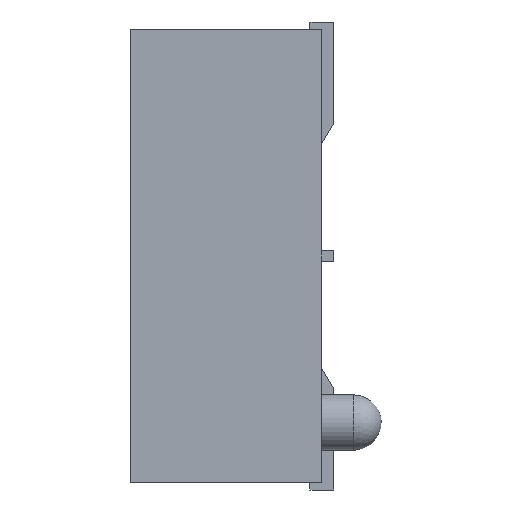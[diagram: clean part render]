
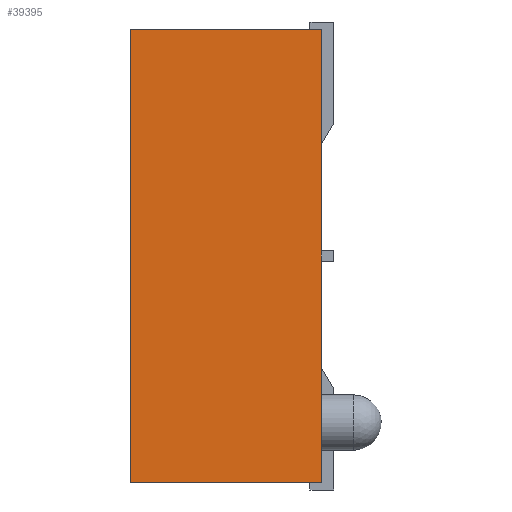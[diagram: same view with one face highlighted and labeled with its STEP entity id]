
A CAD part, left-side view. The second image highlights one B-rep face of the part: STEP entity #39395.
In plain terms, the highlighted planar face has unit normal (-1, 0, 0).
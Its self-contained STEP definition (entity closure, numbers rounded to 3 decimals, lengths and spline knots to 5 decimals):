
#616=LINE('',#55426,#5892);
#923=LINE('',#56001,#6199);
#929=LINE('',#56012,#6205);
#936=LINE('',#56021,#6212);
#5892=VECTOR('',#44429,39.37008);
#6199=VECTOR('',#44742,39.37008);
#6205=VECTOR('',#44750,39.37008);
#6212=VECTOR('',#44761,39.37008);
#11540=ORIENTED_EDGE('',*,*,#23202,.T.);
#11541=ORIENTED_EDGE('',*,*,#23522,.F.);
#11542=ORIENTED_EDGE('',*,*,#23509,.F.);
#11543=ORIENTED_EDGE('',*,*,#23515,.T.);
#23202=EDGE_CURVE('',#29219,#29218,#616,.T.);
#23509=EDGE_CURVE('',#29483,#29484,#923,.T.);
#23515=EDGE_CURVE('',#29483,#29219,#929,.T.);
#23522=EDGE_CURVE('',#29484,#29218,#936,.T.);
#29218=VERTEX_POINT('',#55425);
#29219=VERTEX_POINT('',#55427);
#29483=VERTEX_POINT('',#56000);
#29484=VERTEX_POINT('',#56002);
#33721=EDGE_LOOP('',(#11540,#11541,#11542,#11543));
#35715=FACE_BOUND('',#33721,.T.);
#37706=PLANE('',#41443);
#39395=ADVANCED_FACE('',(#35715),#37706,.F.);
#41443=AXIS2_PLACEMENT_3D('',#56020,#44759,#44760);
#44429=DIRECTION('',(0.,0.,1.));
#44742=DIRECTION('',(0.,0.,1.));
#44750=DIRECTION('',(0.,-1.,0.));
#44759=DIRECTION('',(1.,0.,0.));
#44760=DIRECTION('',(0.,0.,-1.));
#44761=DIRECTION('',(0.,-1.,0.));
#55425=CARTESIAN_POINT('',(-0.8125,0.,0.1425));
#55426=CARTESIAN_POINT('',(-0.8125,0.,-0.1425));
#55427=CARTESIAN_POINT('',(-0.8125,0.,-0.1425));
#56000=CARTESIAN_POINT('',(-0.8125,0.12,-0.1425));
#56001=CARTESIAN_POINT('',(-0.8125,0.12,-0.1425));
#56002=CARTESIAN_POINT('',(-0.8125,0.12,0.1425));
#56012=CARTESIAN_POINT('',(-0.8125,0.12,-0.1425));
#56020=CARTESIAN_POINT('',(-0.8125,0.12,-0.1425));
#56021=CARTESIAN_POINT('',(-0.8125,0.12,0.1425));
